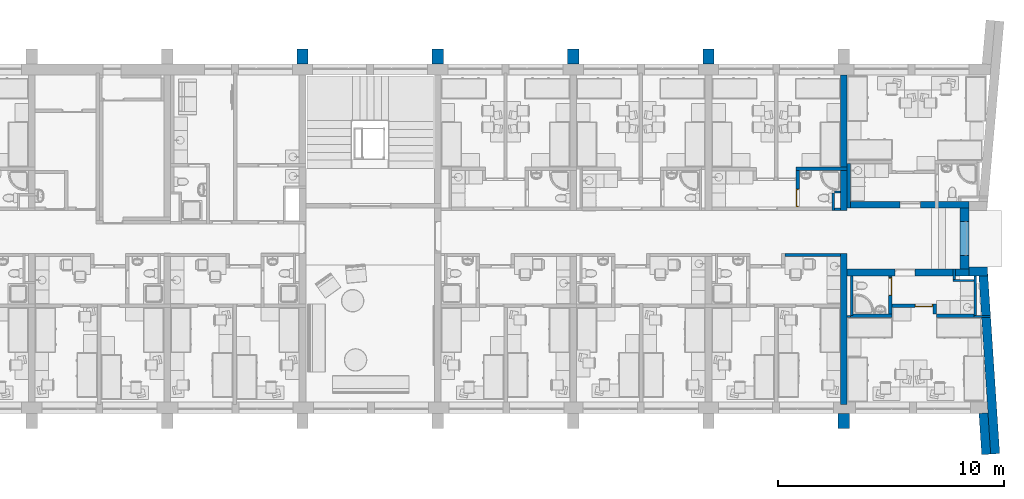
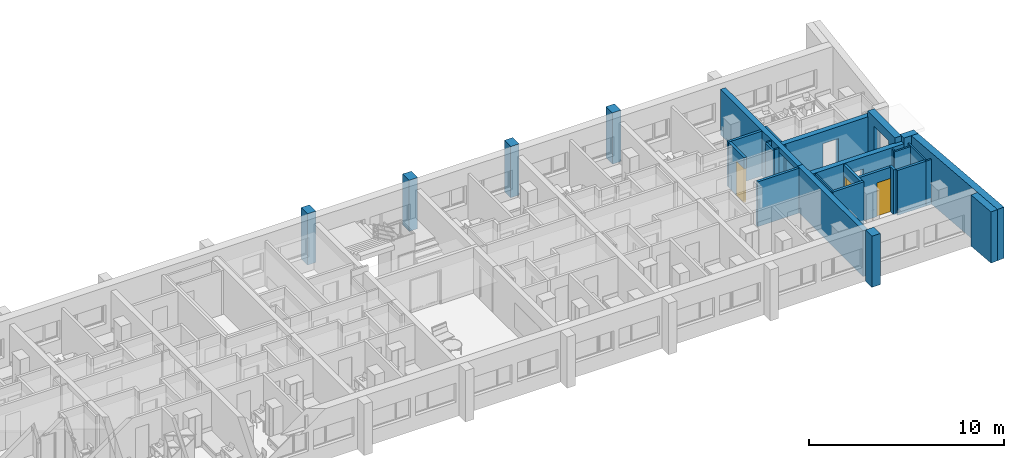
# One storey, part 19 of 165: 31 walls, 3 doors, 7 openings.
"""IFC2X3 building model written with IfcOpenShell, lengths in millimetres."""

from ifc_helpers import new_model, entity, si_unit, converted_unit, money_unit, direction, frame, origin_with_axes, place, context, subcontext, project, spatial, polyline, outline, extrude, faceted_brep, source, transform, mapped, material, material_list, layer, layer_set, layer_usage, type_object, element, fill, save


model = new_model("IFC2X3")

# Units and contexts
model_context = context("Model", 3, precision=1e-05, world=origin_with_axes(), true_north=direction((0.0, 1.0)))
body_context = subcontext(model_context, "Body", "Model", "MODEL_VIEW")
ifc_project = project(units=[si_unit("LENGTHUNIT", "METRE", prefix="MILLI"), si_unit("AREAUNIT", "SQUARE_METRE"), si_unit("VOLUMEUNIT", "CUBIC_METRE"), converted_unit("PLANEANGLEUNIT", "DEGREE", entity("IfcPlaneAngleMeasure", 0.0174532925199), si_unit("PLANEANGLEUNIT", "RADIAN"), dimensions=[0, 0, 0, 0, 0, 0, 0]), si_unit("SOLIDANGLEUNIT", "STERADIAN"), money_unit("USD"), converted_unit("TIMEUNIT", "Year", entity("IfcTimeMeasure", 31556926.0), si_unit("TIMEUNIT", "SECOND"), dimensions=[0, 0, 0, 0, 0, 0, 0]), si_unit("MASSUNIT", "GRAM"), si_unit("THERMODYNAMICTEMPERATUREUNIT", "DEGREE_CELSIUS"), si_unit("LUMINOUSINTENSITYUNIT", "LUMEN")], contexts=[model_context])

# Site, building, storey
site_placement = place(None, origin_with_axes())
site = spatial("IfcSite", under=ifc_project, at=site_placement, Name="Site", CompositionType="ELEMENT")
building_placement = place(site_placement, origin_with_axes())
building = spatial("IfcBuilding", under=site, at=building_placement, Name="Building", CompositionType="ELEMENT")
storey_placement = place(building_placement, frame((0.0, 0.0, 6300.0), z_axis=(0.0, 0.0, 1.0), x_axis=(1.0, 0.0, 0.0)))
storey = spatial("IfcBuildingStorey", under=building, at=storey_placement, Name="4KORRUS", CompositionType="ELEMENT", Elevation=6300.0)

# Wall
ifc_material_1 = material(Name="Olemasolevad seinad tellis, uus viimistlus")
ifc_layer_1 = layer(ifc_material_1, 400.0, ventilated="UNKNOWN")
ifc_layer_set_1 = layer_set([ifc_layer_1], Name="Olemasolevad seinad tellis, uus viimistlus 400")
ifc_layer_usage_1 = layer_usage(ifc_layer_set_1, "AXIS2", "POSITIVE", 0.0)
wall_type_1 = type_object("IfcWallType", Name="Olemasolevad seinad tellis, uus viimistlus 400", PredefinedType="NOTDEFINED")
wall_1_placement = place(storey_placement, frame((17849.9226967, -20139.2398994, 0.0), z_axis=(0.0, 0.0, 1.0), x_axis=(0.0663534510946, -0.997796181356, 0.0)))
element("IfcWallStandardCase", 1, at=wall_1_placement, inside=storey, type_object=wall_type_1, material=ifc_layer_usage_1, Name="VS1", ObjectType="VS1", context=body_context, shape_type="SweptSolid", body=[
    extrude(outline(polyline([(0.0, 0.0), (1833.833538, 0.0), (1833.833538, 400.0), (0.0, 400.0), (0.0, 0.0)])), origin_with_axes(), (0.0, 0.0, 1.0), 3200.0),
])

# Wall, opening
ifc_layer_usage_2 = layer_usage(ifc_layer_set_1, "AXIS2", "POSITIVE", 0.0)
wall_2_placement = place(storey_placement, frame((17015.1799697, -10997.6526712, 0.0), z_axis=(0.0, 0.0, 1.0), x_axis=(0.0, -1.0, 0.0)))
wall_2 = element("IfcWallStandardCase", 2, at=wall_2_placement, inside=storey, type_object=wall_type_1, material=ifc_layer_usage_2, Name="VS1", ObjectType="VS1", context=body_context, shape_type="SweptSolid", body=[
    extrude(outline(polyline([(0.0, 0.0), (2789.68489615, 0.0), (2789.68489615, 400.0), (0.0, 400.0), (0.0, 0.0)])), origin_with_axes(), (0.0, 0.0, 1.0), 3200.0),
])
opening_1_placement = place(wall_2_placement, frame((1391.58722821, 0.0, 524.754102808), z_axis=(0.0, 0.0, 1.0), x_axis=(1.0, 0.0, 0.0)))
element("IfcOpeningElement", 3, at=opening_1_placement, cuts=wall_2, Name="A4", context=body_context, shape_type="SweptSolid", body=[
    extrude(outline(polyline([(-750.0, 2100.0), (-750.0, 0.0), (750.0, 0.0), (750.0, 2100.0), (-750.0, 2100.0)])), frame((0.0, 200.0, 0.0), z_axis=(0.0, -1.0, 0.0), x_axis=(1.0, 0.0, 0.0)), (0.0, 0.0, 1.0), 600.0),
    extrude(outline(polyline([(-750.0, 0.0), (-750.0, -2100.0), (750.0, -2100.0), (750.0, 0.0), (-750.0, 0.0)])), frame((0.0, 200.0, 0.0), z_axis=(0.0, 1.0, 0.0), x_axis=(1.0, 0.0, 0.0)), (0.0, 0.0, 1.0), 600.0),
])

# Walls
ifc_layer_usage_3 = layer_usage(ifc_layer_set_1, "AXIS2", "POSITIVE", -400.0)
wall_3_placement = place(storey_placement, frame((18219.4000971, -13639.2398994, 0.0), z_axis=(0.0, 0.0, 1.0), x_axis=(0.0663534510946, -0.997796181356, 0.0)))
element("IfcWallStandardCase", 4, at=wall_3_placement, inside=storey, type_object=wall_type_1, material=ifc_layer_usage_3, Name="VS1", ObjectType="VS1", context=body_context, shape_type="SweptSolid", body=[
    extrude(outline(polyline([(0.0, -400.0), (8295.21646624, -400.0), (8295.21646624, 0.0), (0.0, 0.0), (0.0, -400.0)])), origin_with_axes(), (0.0, 0.0, 1.0), 3200.0),
])
ifc_layer_usage_4 = layer_usage(ifc_layer_set_1, "AXIS2", "POSITIVE", 0.0)
wall_4_placement = place(storey_placement, frame((18219.4000971, -13639.2398994, 0.0), z_axis=(0.0, 0.0, 1.0), x_axis=(-1.0, 0.0, 0.0)))
element("IfcWallStandardCase", 5, at=wall_4_placement, inside=storey, type_object=wall_type_1, material=ifc_layer_usage_4, Name="VS1", ObjectType="VS1", context=body_context, shape_type="SweptSolid", body=[
    extrude(outline(polyline([(0.0, 0.0), (804.220127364, 0.0), (804.220127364, 400.0), (0.0, 400.0), (0.0, 0.0)])), origin_with_axes(), (0.0, 0.0, 1.0), 3200.0),
])
ifc_layer_2 = layer(ifc_material_1, 500.0, ventilated="UNKNOWN")
ifc_layer_set_2 = layer_set([ifc_layer_2], Name="Olemasolevad seinad tellis, uus viimistlus 500")
ifc_layer_usage_5 = layer_usage(ifc_layer_set_2, "AXIS2", "POSITIVE", -100.0)
wall_type_2 = type_object("IfcWallType", Name="Olemasolevad seinad tellis, uus viimistlus 500", PredefinedType="NOTDEFINED")
wall_5_placement = place(storey_placement, frame((12009.7032967, -20796.6419407, 0.0), z_axis=(0.0, 0.0, 1.0), x_axis=(0.0, 1.0, 0.0)))
element("IfcWallStandardCase", 6, at=wall_5_placement, inside=storey, type_object=wall_type_2, material=ifc_layer_usage_5, Name="VS1", ObjectType="VS1", context=body_context, shape_type="SweptSolid", body=[
    extrude(outline(polyline([(0.0, -100.0), (657.402041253, -100.0), (657.402041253, 400.0), (0.0, 400.0), (0.0, -100.0)])), origin_with_axes(), (0.0, 0.0, 1.0), 3200.0),
])
ifc_layer_usage_6 = layer_usage(ifc_layer_set_2, "AXIS2", "POSITIVE", -100.0)
wall_6_placement = place(storey_placement, frame((-5990.29670331, -4639.6041088, 0.0), z_axis=(0.0, 0.0, 1.0), x_axis=(0.0, 1.0, 0.0)))
element("IfcWallStandardCase", 7, at=wall_6_placement, inside=storey, type_object=wall_type_2, material=ifc_layer_usage_6, Name="VS1", ObjectType="VS1", context=body_context, shape_type="SweptSolid", body=[
    extrude(outline(polyline([(0.0, -100.0), (657.402041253, -100.0), (657.402041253, 400.0), (0.0, 400.0), (0.0, -100.0)])), origin_with_axes(), (0.0, 0.0, 1.0), 3200.0),
])
ifc_layer_usage_7 = layer_usage(ifc_layer_set_2, "AXIS2", "POSITIVE", -100.0)
wall_7_placement = place(storey_placement, frame((6009.70329669, -4639.6041088, 0.0), z_axis=(0.0, 0.0, 1.0), x_axis=(0.0, 1.0, 0.0)))
element("IfcWallStandardCase", 8, at=wall_7_placement, inside=storey, type_object=wall_type_2, material=ifc_layer_usage_7, Name="VS1", ObjectType="VS1", context=body_context, shape_type="SweptSolid", body=[
    extrude(outline(polyline([(0.0, -100.0), (657.402041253, -100.0), (657.402041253, 400.0), (0.0, 400.0), (0.0, -100.0)])), origin_with_axes(), (0.0, 0.0, 1.0), 3200.0),
])
ifc_layer_usage_8 = layer_usage(ifc_layer_set_2, "AXIS2", "POSITIVE", -100.0)
wall_8_placement = place(storey_placement, frame((9.70329668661, -4639.6041088, 0.0), z_axis=(0.0, 0.0, 1.0), x_axis=(0.0, 1.0, 0.0)))
element("IfcWallStandardCase", 9, at=wall_8_placement, inside=storey, type_object=wall_type_2, material=ifc_layer_usage_8, Name="VS1", ObjectType="VS1", context=body_context, shape_type="SweptSolid", body=[
    extrude(outline(polyline([(0.0, -100.0), (657.402041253, -100.0), (657.402041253, 400.0), (0.0, 400.0), (0.0, -100.0)])), origin_with_axes(), (0.0, 0.0, 1.0), 3200.0),
])
ifc_layer_usage_9 = layer_usage(ifc_layer_set_2, "AXIS2", "POSITIVE", -100.0)
wall_9_placement = place(storey_placement, frame((-11990.2967033, -4639.6041088, 0.0), z_axis=(0.0, 0.0, 1.0), x_axis=(0.0, 1.0, 0.0)))
element("IfcWallStandardCase", 10, at=wall_9_placement, inside=storey, type_object=wall_type_2, material=ifc_layer_usage_9, Name="VS1", ObjectType="VS1", context=body_context, shape_type="SweptSolid", body=[
    extrude(outline(polyline([(0.0, -100.0), (657.402041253, -100.0), (657.402041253, 400.0), (0.0, 400.0), (0.0, -100.0)])), origin_with_axes(), (0.0, 0.0, 1.0), 3200.0),
])
ifc_material_2 = material(Name="UmbKipsplaat")
ifc_layer_3 = layer(ifc_material_2, 13.0, ventilated="UNKNOWN")
ifc_layer_4 = layer(ifc_material_2, 13.0, ventilated="UNKNOWN")
ifc_material_3 = material(Name="SOOJUSTUS MINERAALVILL")
ifc_layer_5 = layer(ifc_material_3, 98.0, ventilated="UNKNOWN")
ifc_layer_6 = layer(ifc_material_2, 13.0, ventilated="UNKNOWN")
ifc_layer_7 = layer(ifc_material_2, 13.0, ventilated="UNKNOWN")
ifc_layer_set_3 = layer_set([ifc_layer_3, ifc_layer_4, ifc_layer_5, ifc_layer_6, ifc_layer_7], Name="kipssein150")
ifc_layer_usage_10 = layer_usage(ifc_layer_set_3, "AXIS2", "POSITIVE", 0.0)
wall_type_3 = type_object("IfcWallType", Name="kipssein150 150", PredefinedType="NOTDEFINED")
wall_10_placement = place(storey_placement, frame((15961.5480058, -15738.0262806, 0.0), z_axis=(0.0, 0.0, 1.0), x_axis=(0.0, 1.0, 0.0)))
element("IfcWallStandardCase", 11, at=wall_10_placement, inside=storey, type_object=wall_type_3, material=ifc_layer_usage_10, Name="SS1", ObjectType="SS1", context=body_context, shape_type="SweptSolid", body=[
    extrude(outline(polyline([(0.0, 0.0), (439.515634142, 0.0), (439.515634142, 150.0), (0.0, 150.0), (0.0, 0.0)])), origin_with_axes(), (0.0, 0.0, 1.0), 2800.0),
])
ifc_layer_usage_11 = layer_usage(ifc_layer_set_3, "AXIS2", "POSITIVE", 0.0)
wall_11_placement = place(storey_placement, frame((13984.2564771, -15739.0262806, 0.0), z_axis=(0.0, 0.0, 1.0), x_axis=(-1.0, 0.0, 0.0)))
element("IfcWallStandardCase", 12, at=wall_11_placement, inside=storey, type_object=wall_type_3, material=ifc_layer_usage_11, Name="SS1", ObjectType="SS1", context=body_context, shape_type="SweptSolid", body=[
    extrude(outline(polyline([(0.0, 0.0), (1824.42575847, 0.0), (1824.42575847, 150.0), (0.0, 150.0), (0.0, 0.0)])), origin_with_axes(), (0.0, 0.0, 1.0), 2800.0),
])
ifc_layer_usage_12 = layer_usage(ifc_layer_set_3, "AXIS2", "POSITIVE", -150.0)
wall_12_placement = place(storey_placement, frame((15961.5480058, -15738.0262806, 0.0), z_axis=(0.0, 0.0, 1.0), x_axis=(1.0, 0.0, 0.0)))
element("IfcWallStandardCase", 13, at=wall_12_placement, inside=storey, type_object=wall_type_3, material=ifc_layer_usage_12, Name="SS1", ObjectType="SS1", context=body_context, shape_type="SweptSolid", body=[
    extrude(outline(polyline([(0.0, -150.0), (1674.55318041, -150.0), (1674.55318041, 0.0), (0.0, 0.0), (0.0, -150.0)])), origin_with_axes(), (0.0, 0.0, 1.0), 2800.0),
])

# Wall, opening, door
ifc_layer_usage_13 = layer_usage(ifc_layer_set_3, "AXIS2", "POSITIVE", -150.0)
wall_13_placement = place(storey_placement, frame((13984.2564771, -15298.5106464, 0.0), z_axis=(0.0, 0.0, 1.0), x_axis=(1.0, 0.0, 0.0)))
wall_13 = element("IfcWallStandardCase", 14, at=wall_13_placement, inside=storey, type_object=wall_type_3, material=ifc_layer_usage_13, Name="SS1", ObjectType="SS1", context=body_context, shape_type="SweptSolid", body=[
    extrude(outline(polyline([(0.0, -150.0), (1977.29152874, -150.0), (1977.29152874, 0.0), (0.0, 0.0), (0.0, -150.0)])), origin_with_axes(), (0.0, 0.0, 1.0), 2800.0),
])
opening_2_placement = place(wall_13_placement, frame((1421.24467096, 0.0, 0.0), z_axis=(0.0, 0.0, 1.0), x_axis=(1.0, 0.0, 0.0)))
opening_2 = element("IfcOpeningElement", 15, at=opening_2_placement, cuts=wall_13, Name="SU3-4", context=body_context, shape_type="SweptSolid", body=[
    extrude(outline(polyline([(-400.0, 0.0), (400.0, 0.0), (400.0, 2100.0), (-400.0, 2100.0), (-400.0, 0.0)])), frame((0.0, -150.0, 0.0), z_axis=(0.0, 1.0, 0.0), x_axis=(-1.0, 0.0, 0.0)), (0.0, 0.0, 1.0), 450.0),
])
ifc_material_4 = material(Name="Background")
ifc_material_list = material_list([ifc_material_4])
door_style_1 = type_object("IfcDoorStyle", Name="Door 19", ConstructionType="NOTDEFINED", OperationType="SINGLE_SWING_RIGHT", ParameterTakesPrecedence=False, Sizeable=False)
shared_shape_1 = source(origin_with_axes(), body_context, "Body", "Brep", [
    faceted_brep([(-360.0, -75.0, 0.0), (-360.0, -75.0, 2060.0), (-360.0, -150.0, 2060.0), (-360.0, -150.0, 0.0), (-372.0, -75.0, 2060.0), (-372.0, -75.0, 0.0), (-372.0, -35.0, 2060.0), (-400.0, -35.0, 2060.0), (-400.0, -150.0, 2060.0), (-400.0, -150.0, 0.0), (-400.0, -35.0, 0.0), (-372.0, -35.0, 0.0)], [[[0, 1, 2, 3]], [[4, 1, 0, 5]], [[4, 6, 7, 8, 2, 1]], [[2, 8, 9, 3]], [[5, 0, 3, 9, 10, 11]], [[6, 4, 5, 11]], [[6, 11, 10, 7]], [[9, 8, 7, 10]]]),
    faceted_brep([(372.0, -75.0, 2060.0), (360.0, -75.0, 2060.0), (360.0, -150.0, 2060.0), (400.0, -150.0, 2060.0), (400.0, -35.0, 2060.0), (372.0, -35.0, 2060.0), (372.0, -75.0, 0.0), (360.0, -75.0, 0.0), (360.0, -150.0, 0.0), (400.0, -150.0, 0.0), (400.0, -35.0, 0.0), (372.0, -35.0, 0.0)], [[[0, 1, 2, 3, 4, 5]], [[1, 0, 6, 7]], [[1, 7, 8, 2]], [[2, 8, 9, 3]], [[3, 9, 10, 4]], [[11, 5, 4, 10]], [[0, 5, 11, 6]], [[6, 11, 10, 9, 8, 7]]]),
    faceted_brep([(-372.0, -35.0, 2072.0), (-372.0, -35.0, 2060.0), (-400.0, -35.0, 2060.0), (-400.0, -35.0, 2100.0), (400.0, -35.0, 2100.0), (400.0, -35.0, 2060.0), (372.0, -35.0, 2060.0), (372.0, -35.0, 2072.0), (-372.0, -75.0, 2072.0), (-372.0, -75.0, 2060.0), (-360.0, -75.0, 2060.0), (-360.0, -150.0, 2060.0), (-400.0, -150.0, 2060.0), (-400.0, -150.0, 2100.0), (400.0, -150.0, 2100.0), (400.0, -150.0, 2060.0), (372.0, -75.0, 2060.0), (360.0, -150.0, 2060.0), (360.0, -75.0, 2060.0), (372.0, -75.0, 2072.0)], [[[0, 1, 2, 3, 4, 5, 6, 7]], [[1, 0, 8, 9]], [[9, 10, 11, 12, 2, 1]], [[12, 13, 3, 2]], [[13, 14, 4, 3]], [[14, 15, 5, 4]], [[16, 6, 5, 15, 17, 18]], [[7, 6, 16, 19]], [[0, 7, 19, 8]], [[16, 18, 10, 9, 8, 19]], [[10, 18, 17, 11]], [[15, 14, 13, 12, 11, 17]]]),
    faceted_brep([(372.0, -35.0, 0.0), (372.0, -75.0, 0.0), (-372.0, -75.0, 0.0), (-372.0, -35.0, 0.0), (372.0, -35.0, 2072.0), (372.0, -75.0, 2072.0), (-372.0, -75.0, 2072.0), (-372.0, -35.0, 2072.0)], [[[0, 1, 2, 3]], [[4, 5, 1, 0]], [[1, 5, 6, 2]], [[3, 2, 6, 7]], [[0, 3, 7, 4]], [[7, 6, 5, 4]]]),
])
door_1_placement = place(opening_2_placement, frame((400.0, 0.0, 0.0), z_axis=(0.0, 0.0, 1.0), x_axis=(-1.0, 0.0, 0.0)))
door_1 = element("IfcDoor", 16, at=door_1_placement, inside=storey, type_object=door_style_1, material=ifc_material_list, Name="SU3-4", ObjectType="Toa uks", OverallHeight=2100.0, OverallWidth=800.0, context=body_context, shape_type="MappedRepresentation", body=[
    mapped(shared_shape_1, transform((400.0, 150.0, 0.0))),
])
fill(opening_2, door_1)

ifc_layer_usage_14 = layer_usage(ifc_layer_set_3, "AXIS2", "POSITIVE", 0.0)
wall_14_placement = place(storey_placement, frame((13984.2564771, -15739.0262806, 0.0), z_axis=(0.0, 0.0, 1.0), x_axis=(0.0, 1.0, 0.0)))
wall_14 = element("IfcWallStandardCase", 17, at=wall_14_placement, inside=storey, type_object=wall_type_3, material=ifc_layer_usage_14, Name="SS1", ObjectType="SS1", context=body_context, shape_type="SweptSolid", body=[
    extrude(outline(polyline([(0.0, 0.0), (1699.78638114, 0.0), (1699.78638114, 150.0), (0.0, 150.0), (0.0, 0.0)])), origin_with_axes(), (0.0, 0.0, 1.0), 2800.0),
])
opening_3_placement = place(wall_14_placement, frame((1220.22560435, 0.0, 0.0), z_axis=(0.0, 0.0, 1.0), x_axis=(1.0, 0.0, 0.0)))
opening_3 = element("IfcOpeningElement", 18, at=opening_3_placement, cuts=wall_14, Name="SU3-3", context=body_context, shape_type="SweptSolid", body=[
    extrude(outline(polyline([(-400.0, -2100.0), (400.0, -2100.0), (400.0, 0.0), (-400.0, 0.0), (-400.0, -2100.0)])), frame((0.0, 150.0, 0.0), z_axis=(0.0, 1.0, 0.0), x_axis=(1.0, 0.0, 0.0)), (0.0, 0.0, -1.0), 450.0),
])
door_style_2 = type_object("IfcDoorStyle", Name="Door 19", ConstructionType="NOTDEFINED", OperationType="SINGLE_SWING_LEFT", ParameterTakesPrecedence=False, Sizeable=False)
shared_shape_2 = source(origin_with_axes(), body_context, "Body", "Brep", [
    faceted_brep([(360.0, -40.0, 0.0), (360.0, -115.0, 0.0), (360.0, -115.0, 2060.0), (360.0, -40.0, 2060.0), (372.0, -40.0, 0.0), (372.0, 0.0, 0.0), (400.0, 0.0, 0.0), (400.0, -115.0, 0.0), (400.0, -115.0, 2060.0), (372.0, -40.0, 2060.0), (400.0, 0.0, 2060.0), (372.0, 0.0, 2060.0)], [[[0, 1, 2, 3]], [[4, 5, 6, 7, 1, 0]], [[2, 1, 7, 8]], [[9, 3, 2, 8, 10, 11]], [[9, 4, 0, 3]], [[11, 5, 4, 9]], [[11, 10, 6, 5]], [[7, 6, 10, 8]]]),
    faceted_brep([(-372.0, -40.0, 2060.0), (-372.0, 0.0, 2060.0), (-400.0, 0.0, 2060.0), (-400.0, -115.0, 2060.0), (-360.0, -115.0, 2060.0), (-360.0, -40.0, 2060.0), (-372.0, -40.0, 0.0), (-372.0, 0.0, 0.0), (-400.0, 0.0, 0.0), (-400.0, -115.0, 0.0), (-360.0, -115.0, 0.0), (-360.0, -40.0, 0.0)], [[[0, 1, 2, 3, 4, 5]], [[0, 6, 7, 1]], [[7, 8, 2, 1]], [[3, 2, 8, 9]], [[4, 3, 9, 10]], [[5, 4, 10, 11]], [[5, 11, 6, 0]], [[6, 11, 10, 9, 8, 7]]]),
    faceted_brep([(372.0, 0.0, 2072.0), (-372.0, 0.0, 2072.0), (-372.0, 0.0, 2060.0), (-400.0, 0.0, 2060.0), (-400.0, 0.0, 2100.0), (400.0, 0.0, 2100.0), (400.0, 0.0, 2060.0), (372.0, 0.0, 2060.0), (372.0, -40.0, 2072.0), (-372.0, -40.0, 2072.0), (-372.0, -40.0, 2060.0), (-360.0, -40.0, 2060.0), (-360.0, -115.0, 2060.0), (-400.0, -115.0, 2060.0), (-400.0, -115.0, 2100.0), (400.0, -115.0, 2100.0), (400.0, -115.0, 2060.0), (372.0, -40.0, 2060.0), (360.0, -115.0, 2060.0), (360.0, -40.0, 2060.0)], [[[0, 1, 2, 3, 4, 5, 6, 7]], [[0, 8, 9, 1]], [[1, 9, 10, 2]], [[10, 11, 12, 13, 3, 2]], [[14, 4, 3, 13]], [[15, 5, 4, 14]], [[16, 6, 5, 15]], [[17, 7, 6, 16, 18, 19]], [[7, 17, 8, 0]], [[10, 9, 8, 17, 19, 11]], [[19, 18, 12, 11]], [[13, 12, 18, 16, 15, 14]]]),
    faceted_brep([(-372.0, 0.0, 0.0), (372.0, 0.0, 0.0), (372.0, -40.0, 0.0), (-372.0, -40.0, 0.0), (-372.0, 0.0, 2072.0), (372.0, 0.0, 2072.0), (372.0, -40.0, 2072.0), (-372.0, -40.0, 2072.0)], [[[0, 1, 2, 3]], [[0, 4, 5, 1]], [[1, 5, 6, 2]], [[3, 2, 6, 7]], [[4, 0, 3, 7]], [[5, 4, 7, 6]]]),
])
door_2_placement = place(opening_3_placement, frame((400.0, 0.0, 0.0), z_axis=(0.0, 0.0, 1.0), x_axis=(-1.0, 0.0, 0.0)))
door_2 = element("IfcDoor", 19, at=door_2_placement, inside=storey, type_object=door_style_2, material=ifc_material_list, Name="SU3-3", ObjectType="WC-uks", OverallHeight=2100.0, OverallWidth=800.0, context=body_context, shape_type="MappedRepresentation", body=[
    mapped(shared_shape_2, transform((400.0, 0.0, 0.0))),
])
fill(opening_3, door_2)

# Walls
ifc_layer_usage_15 = layer_usage(ifc_layer_set_3, "AXIS2", "POSITIVE", -150.0)
wall_15_placement = place(storey_placement, frame((12159.7032967, -9069.3690093, 0.0), z_axis=(0.0, 0.0, 1.0), x_axis=(0.0, -1.0, 0.0)))
element("IfcWallStandardCase", 20, at=wall_15_placement, inside=storey, type_object=wall_type_3, material=ifc_layer_usage_15, Name="SS1", ObjectType="SS1", context=body_context, shape_type="SweptSolid", body=[
    extrude(outline(polyline([(0.0, -150.0), (1970.2350995, -150.0), (1970.2350995, 0.0), (0.0, 0.0), (0.0, -150.0)])), origin_with_axes(), (0.0, 0.0, 1.0), 2800.0),
])
ifc_layer_usage_16 = layer_usage(ifc_layer_set_3, "AXIS2", "POSITIVE", -150.0)
wall_16_placement = place(storey_placement, frame((9253.26896176, -13039.2398994, 0.0), z_axis=(0.0, 0.0, 1.0), x_axis=(1.0, 0.0, 0.0)))
element("IfcWallStandardCase", 21, at=wall_16_placement, inside=storey, type_object=wall_type_3, material=ifc_layer_usage_16, Name="SS1", ObjectType="SS1", context=body_context, shape_type="SweptSolid", body=[
    extrude(outline(polyline([(0.0, -150.0), (2456.43433493, -150.0), (2456.43433493, 0.0), (0.0, 0.0), (0.0, -150.0)])), origin_with_axes(), (0.0, 0.0, 1.0), 2800.0),
])
ifc_layer_usage_17 = layer_usage(ifc_layer_set_3, "AXIS2", "POSITIVE", 0.0)
wall_17_placement = place(storey_placement, frame((9734.70329669, -9366.37850445, 0.0), z_axis=(0.0, 0.0, 1.0), x_axis=(1.0, 0.0, 0.0)))
element("IfcWallStandardCase", 22, at=wall_17_placement, inside=storey, type_object=wall_type_3, material=ifc_layer_usage_17, Name="SS1", ObjectType="SS1", context=body_context, shape_type="SweptSolid", body=[
    extrude(outline(polyline([(0.0, 0.0), (2275.0, 0.0), (2275.0, 150.0), (0.0, 150.0), (0.0, 0.0)])), origin_with_axes(), (0.0, 0.0, 1.0), 2800.0),
])

# Wall, opening, door
ifc_layer_usage_18 = layer_usage(ifc_layer_set_3, "AXIS2", "POSITIVE", 0.0)
wall_18_placement = place(storey_placement, frame((9734.70329669, -9366.37850445, 0.0), z_axis=(0.0, 0.0, 1.0), x_axis=(0.0, -1.0, 0.0)))
wall_18 = element("IfcWallStandardCase", 23, at=wall_18_placement, inside=storey, type_object=wall_type_3, material=ifc_layer_usage_18, Name="SS1", ObjectType="SS1", context=body_context, shape_type="SweptSolid", body=[
    extrude(outline(polyline([(0.0, 0.0), (1619.22560435, 0.0), (1619.22560435, 150.0), (0.0, 150.0), (0.0, 0.0)])), origin_with_axes(), (0.0, 0.0, 1.0), 2800.0),
])
opening_4_placement = place(wall_18_placement, frame((1219.22560435, 0.0, 0.0), z_axis=(0.0, 0.0, 1.0), x_axis=(1.0, 0.0, 0.0)))
opening_4 = element("IfcOpeningElement", 24, at=opening_4_placement, cuts=wall_18, Name="SU3-3", context=body_context, shape_type="SweptSolid", body=[
    extrude(outline(polyline([(-400.0, -2100.0), (400.0, -2100.0), (400.0, 0.0), (-400.0, 0.0), (-400.0, -2100.0)])), frame((0.0, 150.0, 0.0), z_axis=(0.0, 1.0, 0.0), x_axis=(1.0, 0.0, 0.0)), (0.0, 0.0, -1.0), 450.0),
])
door_3_placement = place(opening_4_placement, frame((400.0, 0.0, 0.0), z_axis=(0.0, 0.0, 1.0), x_axis=(-1.0, 0.0, 0.0)))
door_3 = element("IfcDoor", 25, at=door_3_placement, inside=storey, type_object=door_style_2, material=ifc_material_list, Name="SU3-3", ObjectType="WC-uks", OverallHeight=2100.0, OverallWidth=800.0, context=body_context, shape_type="MappedRepresentation", body=[
    mapped(shared_shape_2, transform((400.0, 0.0, 0.0))),
])
fill(opening_4, door_3)

# Wall, opening
ifc_material_5 = material(Name="Olemasolevad seinad tellis, uus viimistlus")
ifc_layer_8 = layer(ifc_material_5, 300.0, ventilated="UNKNOWN")
ifc_layer_set_4 = layer_set([ifc_layer_8], Name="Olemasolevad seinad tellis, uus viimistlus  300")
ifc_layer_usage_19 = layer_usage(ifc_layer_set_4, "AXIS2", "POSITIVE", 0.0)
wall_type_4 = type_object("IfcWallType", Name="Olemasolevad seinad tellis, uus viimistlus  300", PredefinedType="NOTDEFINED")
wall_19_placement = place(storey_placement, frame((12009.7032967, -13036.3705726, 0.0), z_axis=(0.0, 0.0, 1.0), x_axis=(0.0, 1.0, 0.0)))
wall_19 = element("IfcWallStandardCase", 26, at=wall_19_placement, inside=storey, type_object=wall_type_4, material=ifc_layer_usage_19, Name="KS1", ObjectType="KS1", context=body_context, shape_type="SweptSolid", body=[
    extrude(outline(polyline([(0.0, 0.0), (7896.7664638, 0.0), (7896.7664638, 300.0), (0.0, 300.0), (0.0, 0.0)])), origin_with_axes(), (0.0, 0.0, 1.0), 2850.0),
])
opening_5_placement = place(wall_19_placement, frame((946.262261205, 0.0, 0.0), z_axis=(0.0, 0.0, 1.0), x_axis=(1.0, 0.0, 0.0)))
element("IfcOpeningElement", 27, at=opening_5_placement, cuts=wall_19, Name="DOO - 001", context=body_context, shape_type="SweptSolid", body=[
    extrude(outline(polyline([(-949.132, 2550.0), (-949.132, 0.0), (949.132, 0.0), (949.132, 2550.0), (-949.132, 2550.0)])), frame((0.0, 0.0, 0.0), z_axis=(0.0, -1.0, 0.0), x_axis=(1.0, 0.0, 0.0)), (0.0, 0.0, 1.0), 300.0),
    extrude(outline(polyline([(-949.132, 0.0), (-949.132, -2550.0), (949.132, -2550.0), (949.132, 0.0), (-949.132, 0.0)])), frame((0.0, 0.0, 0.0), z_axis=(0.0, 1.0, 0.0), x_axis=(1.0, 0.0, 0.0)), (0.0, 0.0, 1.0), 300.0),
])

ifc_layer_usage_20 = layer_usage(ifc_layer_set_4, "AXIS2", "POSITIVE", -300.0)
wall_20_placement = place(storey_placement, frame((17415.1799697, -11039.6041088, 0.0), z_axis=(0.0, 0.0, 1.0), x_axis=(-1.0, 0.0, 0.0)))
wall_20 = element("IfcWallStandardCase", 28, at=wall_20_placement, inside=storey, type_object=wall_type_4, material=ifc_layer_usage_20, Name="KS1", ObjectType="KS1", context=body_context, shape_type="SweptSolid", body=[
    extrude(outline(polyline([(0.0, -300.0), (5405.47667304, -300.0), (5405.47667304, 0.0), (0.0, 0.0), (0.0, -300.0)])), origin_with_axes(), (0.0, 0.0, 1.0), 2850.0),
])
opening_6_placement = place(wall_20_placement, frame((2605.79848612, 0.0, 0.0), z_axis=(0.0, 0.0, 1.0), x_axis=(1.0, 0.0, 0.0)))
element("IfcOpeningElement", 29, at=opening_6_placement, cuts=wall_20, Name="SU2-6", context=body_context, shape_type="SweptSolid", body=[
    extrude(outline(polyline([(-450.0, 0.0), (450.0, 0.0), (450.0, 2100.0), (-450.0, 2100.0), (-450.0, 0.0)])), frame((0.0, 300.0, 0.0), z_axis=(0.0, 1.0, 0.0), x_axis=(-1.0, 0.0, 0.0)), (0.0, 0.0, -1.0), 900.0),
])

ifc_layer_usage_21 = layer_usage(ifc_layer_set_4, "AXIS2", "POSITIVE", 0.0)
wall_21_placement = place(storey_placement, frame((17415.1799697, -13739.2398994, 0.0), z_axis=(0.0, 0.0, 1.0), x_axis=(-1.0, 0.0, 0.0)))
wall_21 = element("IfcWallStandardCase", 30, at=wall_21_placement, inside=storey, type_object=wall_type_4, material=ifc_layer_usage_21, Name="KS1", ObjectType="KS1", context=body_context, shape_type="SweptSolid", body=[
    extrude(outline(polyline([(0.0, 0.0), (5405.47667304, 0.0), (5405.47667304, 300.0), (0.0, 300.0), (0.0, 0.0)])), origin_with_axes(), (0.0, 0.0, 1.0), 2850.0),
])
opening_7_placement = place(wall_21_placement, frame((2839.68172869, 0.0, 0.0), z_axis=(0.0, 0.0, 1.0), x_axis=(1.0, 0.0, 0.0)))
element("IfcOpeningElement", 31, at=opening_7_placement, cuts=wall_21, Name="SU2-5", context=body_context, shape_type="SweptSolid", body=[
    extrude(outline(polyline([(-450.0, -2100.0), (450.0, -2100.0), (450.0, 0.0), (-450.0, 0.0), (-450.0, -2100.0)])), frame((0.0, 300.0, 0.0), z_axis=(0.0, -1.0, 0.0), x_axis=(-1.0, 0.0, 0.0)), (0.0, 0.0, 1.0), 900.0),
])

# Walls
ifc_layer_usage_22 = layer_usage(ifc_layer_set_4, "AXIS2", "POSITIVE", 0.0)
wall_22_placement = place(storey_placement, frame((12009.7032967, -19739.2398994, 0.0), z_axis=(0.0, 0.0, 1.0), x_axis=(0.0, 1.0, 0.0)))
element("IfcWallStandardCase", 32, at=wall_22_placement, inside=storey, type_object=wall_type_4, material=ifc_layer_usage_22, Name="KS1", ObjectType="KS1", context=body_context, shape_type="SweptSolid", body=[
    extrude(outline(polyline([(0.0, 0.0), (6700.0, 0.0), (6700.0, 300.0), (0.0, 300.0), (0.0, 0.0)])), origin_with_axes(), (0.0, 0.0, 1.0), 2850.0),
])
ifc_material_6 = material(Name="krohv")
ifc_layer_9 = layer(ifc_material_6, 2.0, ventilated="UNKNOWN")
ifc_layer_10 = layer(ifc_material_6, 10.0, ventilated="UNKNOWN")
ifc_material_7 = material(Name="Kergplokk")
ifc_layer_11 = layer(ifc_material_7, 76.0, ventilated="UNKNOWN")
ifc_layer_12 = layer(ifc_material_6, 10.0, ventilated="UNKNOWN")
ifc_layer_13 = layer(ifc_material_6, 2.0, ventilated="UNKNOWN")
ifc_layer_set_5 = layer_set([ifc_layer_9, ifc_layer_10, ifc_layer_11, ifc_layer_12, ifc_layer_13], Name="Kergplokk Bauroc 100")
ifc_layer_usage_23 = layer_usage(ifc_layer_set_5, "AXIS2", "POSITIVE", 0.0)
wall_type_5 = type_object("IfcWallType", Name="Kergplokk Bauroc 100 100", PredefinedType="NOTDEFINED")
wall_23_placement = place(storey_placement, frame((16701.5970358, -13739.2398994, 0.0), z_axis=(0.0, 0.0, 1.0), x_axis=(0.0, -1.0, 0.0)))
element("IfcWallStandardCase", 33, at=wall_23_placement, inside=storey, type_object=wall_type_5, material=ifc_layer_usage_23, Name="SS2", ObjectType="SAHTISEIN", context=body_context, shape_type="SweptSolid", body=[
    extrude(outline(polyline([(0.0, 0.0), (460.0, 0.0), (460.0, 100.0), (0.0, 100.0), (0.0, 0.0)])), origin_with_axes(), (0.0, 0.0, 1.0), 2750.0),
])
ifc_layer_usage_24 = layer_usage(ifc_layer_set_5, "AXIS2", "POSITIVE", 0.0)
wall_24_placement = place(storey_placement, frame((17636.1011863, -14039.2398994, 0.0), z_axis=(0.0, 0.0, 1.0), x_axis=(0.0, -1.0, 0.0)))
element("IfcWallStandardCase", 34, at=wall_24_placement, inside=storey, type_object=wall_type_5, material=ifc_layer_usage_24, Name="SS2", ObjectType="sahtisein", context=body_context, shape_type="SweptSolid", body=[
    extrude(outline(polyline([(0.0, 0.0), (1748.78638114, 0.0), (1748.78638114, 100.0), (0.0, 100.0), (0.0, 0.0)])), origin_with_axes(), (0.0, 0.0, 1.0), 2800.0),
])
ifc_layer_usage_25 = layer_usage(ifc_layer_set_5, "AXIS2", "POSITIVE", -100.0)
wall_25_placement = place(storey_placement, frame((17636.1011863, -15788.0262806, 0.0), z_axis=(0.0, 0.0, 1.0), x_axis=(1.0, 0.0, 0.0)))
element("IfcWallStandardCase", 35, at=wall_25_placement, inside=storey, type_object=wall_type_5, material=ifc_layer_usage_25, Name="SS2", ObjectType="sahtisein", context=body_context, shape_type="SweptSolid", body=[
    extrude(outline(polyline([(0.0, -100.0), (726.193216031, -100.0), (726.193216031, 0.0), (0.0, 0.0), (0.0, -100.0)])), origin_with_axes(), (0.0, 0.0, 1.0), 2800.0),
])
ifc_layer_usage_26 = layer_usage(ifc_layer_set_5, "AXIS2", "POSITIVE", 0.0)
wall_26_placement = place(storey_placement, frame((12159.8307186, -14039.2398994, 0.0), z_axis=(0.0, 0.0, 1.0), x_axis=(0.0, -1.0, 0.0)))
element("IfcWallStandardCase", 36, at=wall_26_placement, inside=storey, type_object=wall_type_5, material=ifc_layer_usage_26, Name="SS2", ObjectType="sahtisein", context=body_context, shape_type="SweptSolid", body=[
    extrude(outline(polyline([(0.0, 0.0), (1749.78638114, 0.0), (1749.78638114, 100.0), (0.0, 100.0), (0.0, 0.0)])), origin_with_axes(), (0.0, 0.0, 1.0), 2800.0),
])
ifc_layer_usage_27 = layer_usage(ifc_layer_set_5, "AXIS2", "POSITIVE", 0.0)
wall_27_placement = place(storey_placement, frame((12159.8307186, -15789.0262806, 0.0), z_axis=(0.0, 0.0, 1.0), x_axis=(-1.0, 0.0, 0.0)))
element("IfcWallStandardCase", 37, at=wall_27_placement, inside=storey, type_object=wall_type_5, material=ifc_layer_usage_27, Name="SS2", ObjectType="sahtisein", context=body_context, shape_type="SweptSolid", body=[
    extrude(outline(polyline([(0.0, 0.0), (150.12742194, 0.0), (150.12742194, 100.0), (0.0, 100.0), (0.0, 0.0)])), origin_with_axes(), (0.0, 0.0, 1.0), 2800.0),
])
ifc_layer_usage_28 = layer_usage(ifc_layer_set_5, "AXIS2", "POSITIVE", -100.0)
wall_28_placement = place(storey_placement, frame((11709.7032967, -11135.6041088, 0.0), z_axis=(0.0, 0.0, 1.0), x_axis=(-1.0, 0.0, 0.0)))
element("IfcWallStandardCase", 38, at=wall_28_placement, inside=storey, type_object=wall_type_5, material=ifc_layer_usage_28, Name="SS2", ObjectType="sahtisein", context=body_context, shape_type="SweptSolid", body=[
    extrude(outline(polyline([(0.0, -100.0), (272.077061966, -100.0), (272.077061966, 0.0), (0.0, 0.0), (0.0, -100.0)])), origin_with_axes(), (0.0, 0.0, 1.0), 2800.0),
])
ifc_layer_usage_29 = layer_usage(ifc_layer_set_5, "AXIS2", "POSITIVE", -100.0)
wall_29_placement = place(storey_placement, frame((11709.7032967, -10376.8622383, 0.0), z_axis=(0.0, 0.0, 1.0), x_axis=(-1.0, 0.0, 0.0)))
element("IfcWallStandardCase", 39, at=wall_29_placement, inside=storey, type_object=wall_type_5, material=ifc_layer_usage_29, Name="SS2", ObjectType="sahtisein", context=body_context, shape_type="SweptSolid", body=[
    extrude(outline(polyline([(0.0, -100.0), (272.077061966, -100.0), (272.077061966, 0.0), (0.0, 0.0), (0.0, -100.0)])), origin_with_axes(), (0.0, 0.0, 1.0), 2800.0),
])
ifc_layer_usage_30 = layer_usage(ifc_layer_set_5, "AXIS2", "POSITIVE", 0.0)
wall_30_placement = place(storey_placement, frame((17636.1011863, -14199.2398994, 0.0), z_axis=(0.0, 0.0, 1.0), x_axis=(-1.0, 0.0, 0.0)))
element("IfcWallStandardCase", 40, at=wall_30_placement, inside=storey, type_object=wall_type_5, material=ifc_layer_usage_30, Name="SS2", ObjectType="SAHTISEIN", context=body_context, shape_type="SweptSolid", body=[
    extrude(outline(polyline([(0.0, 0.0), (934.504150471, 0.0), (934.504150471, 100.0), (0.0, 100.0), (0.0, 0.0)])), origin_with_axes(), (0.0, 0.0, 1.0), 2750.0),
])
ifc_layer_usage_31 = layer_usage(ifc_layer_set_5, "AXIS2", "POSITIVE", -100.0)
wall_31_placement = place(storey_placement, frame((11437.6262347, -10376.8622383, 0.0), z_axis=(0.0, 0.0, 1.0), x_axis=(0.0, -1.0, 0.0)))
element("IfcWallStandardCase", 41, at=wall_31_placement, inside=storey, type_object=wall_type_5, material=ifc_layer_usage_31, Name="SS2", ObjectType="sahtisein", context=body_context, shape_type="SweptSolid", body=[
    extrude(outline(polyline([(0.0, -100.0), (758.741870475, -100.0), (758.741870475, 0.0), (0.0, 0.0), (0.0, -100.0)])), origin_with_axes(), (0.0, 0.0, 1.0), 2800.0),
])

save(model, "model.ifc")
